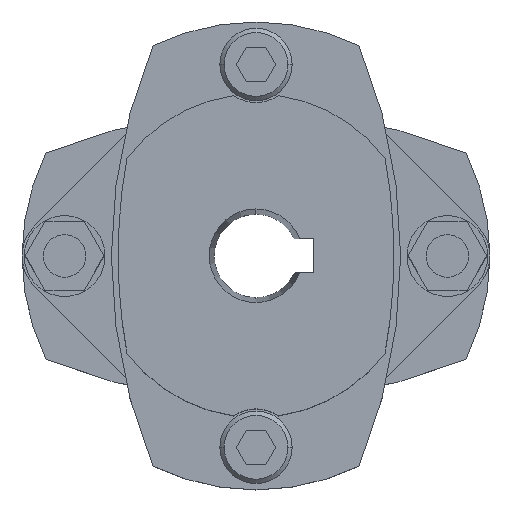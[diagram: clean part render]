
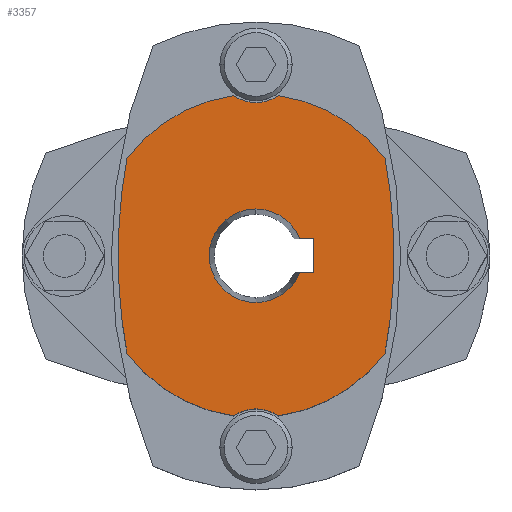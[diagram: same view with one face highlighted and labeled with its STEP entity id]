
A CAD part, top view. The second image highlights one B-rep face of the part: STEP entity #3357.
In plain terms, the highlighted planar face has unit normal (0, 0, 1).
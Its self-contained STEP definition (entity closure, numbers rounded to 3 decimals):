
#2071=CARTESIAN_POINT('',(-16.2,0.,22.4));
#2072=VERTEX_POINT('',#2071);
#2088=CARTESIAN_POINT('',(-15.173,-11.435,22.4));
#2089=VERTEX_POINT('',#2088);
#2096=CARTESIAN_POINT('',(48.,0.,22.4));
#2097=DIRECTION('',(0.0,0.0,-1.0));
#2098=DIRECTION('',(-1.0,0.0,0.0));
#2099=AXIS2_PLACEMENT_3D('',#2096,#2097,#2098);
#2100=CIRCLE('',#2099,64.2);
#2101=EDGE_CURVE('',#2089,#2072,#2100,.T.);
#2111=CARTESIAN_POINT('',(16.2,0.,22.4));
#2112=VERTEX_POINT('',#2111);
#2121=CARTESIAN_POINT('',(15.173,-11.435,22.4));
#2122=VERTEX_POINT('',#2121);
#2123=CARTESIAN_POINT('',(-48.,0.,22.4));
#2124=DIRECTION('',(0.0,0.0,-1.0));
#2125=DIRECTION('',(-1.0,0.0,0.0));
#2126=AXIS2_PLACEMENT_3D('',#2123,#2124,#2125);
#2127=CIRCLE('',#2126,64.2);
#2128=EDGE_CURVE('',#2112,#2122,#2127,.T.);
#2343=CARTESIAN_POINT('',(0.,5.5,22.4));
#2344=VERTEX_POINT('',#2343);
#2362=CARTESIAN_POINT('',(5.123,2.,22.4));
#2363=VERTEX_POINT('',#2362);
#2377=CARTESIAN_POINT('',(0.,0.,22.4));
#2378=DIRECTION('',(0.0,0.0,-1.0));
#2379=DIRECTION('',(0.0,-1.0,0.0));
#2380=AXIS2_PLACEMENT_3D('',#2377,#2378,#2379);
#2381=CIRCLE('',#2380,5.5);
#2382=EDGE_CURVE('',#2344,#2363,#2381,.T.);
#2394=CARTESIAN_POINT('',(0.,-5.5,22.4));
#2395=VERTEX_POINT('',#2394);
#2410=CARTESIAN_POINT('',(0.,0.,22.4));
#2411=DIRECTION('',(0.0,0.0,-1.0));
#2412=DIRECTION('',(0.0,-1.0,0.0));
#2413=AXIS2_PLACEMENT_3D('',#2410,#2411,#2412);
#2414=CIRCLE('',#2413,5.5);
#2415=EDGE_CURVE('',#2395,#2344,#2414,.T.);
#2497=CARTESIAN_POINT('',(6.8,-2.,22.4));
#2498=VERTEX_POINT('',#2497);
#2499=CARTESIAN_POINT('',(5.123,-2.,22.4));
#2500=VERTEX_POINT('',#2499);
#2501=CARTESIAN_POINT('',(6.8,-2.,22.4));
#2502=DIRECTION('',(-1.0,0.0,0.0));
#2503=VECTOR('',#2502,1.677);
#2504=LINE('',#2501,#2503);
#2505=EDGE_CURVE('',#2498,#2500,#2504,.T.);
#2544=CARTESIAN_POINT('',(6.8,2.,22.4));
#2545=VERTEX_POINT('',#2544);
#2546=CARTESIAN_POINT('',(5.123,2.,22.4));
#2547=DIRECTION('',(1.0,0.0,0.0));
#2548=VECTOR('',#2547,1.677);
#2549=LINE('',#2546,#2548);
#2550=EDGE_CURVE('',#2363,#2545,#2549,.T.);
#2575=CARTESIAN_POINT('',(6.8,2.,22.4));
#2576=DIRECTION('',(0.0,-1.0,0.0));
#2577=VECTOR('',#2576,4.0);
#2578=LINE('',#2575,#2577);
#2579=EDGE_CURVE('',#2545,#2498,#2578,.T.);
#2628=CARTESIAN_POINT('',(0.,0.,22.4));
#2629=DIRECTION('',(0.0,0.0,-1.0));
#2630=DIRECTION('',(0.0,-1.0,0.0));
#2631=AXIS2_PLACEMENT_3D('',#2628,#2629,#2630);
#2632=CIRCLE('',#2631,5.5);
#2633=EDGE_CURVE('',#2500,#2395,#2632,.T.);
#3179=CARTESIAN_POINT('',(-2.593,-18.822,22.4));
#3180=VERTEX_POINT('',#3179);
#3196=CARTESIAN_POINT('',(2.593,-18.822,22.4));
#3197=VERTEX_POINT('',#3196);
#3204=CARTESIAN_POINT('',(0.,-22.5,22.4));
#3205=DIRECTION('',(0.0,0.0,-1.0));
#3206=DIRECTION('',(-1.0,0.0,0.0));
#3207=AXIS2_PLACEMENT_3D('',#3204,#3205,#3206);
#3208=CIRCLE('',#3207,4.5);
#3209=EDGE_CURVE('',#3180,#3197,#3208,.T.);
#3221=CARTESIAN_POINT('',(2.593,18.822,22.4));
#3222=VERTEX_POINT('',#3221);
#3238=CARTESIAN_POINT('',(-2.593,18.822,22.4));
#3239=VERTEX_POINT('',#3238);
#3246=CARTESIAN_POINT('',(0.,22.5,22.4));
#3247=DIRECTION('',(0.0,0.0,-1.0));
#3248=DIRECTION('',(-1.0,0.0,0.0));
#3249=AXIS2_PLACEMENT_3D('',#3246,#3247,#3248);
#3250=CIRCLE('',#3249,4.5);
#3251=EDGE_CURVE('',#3222,#3239,#3250,.T.);
#3270=CARTESIAN_POINT('',(0.,0.,22.4));
#3271=DIRECTION('',(0.0,0.0,-1.0));
#3272=DIRECTION('',(-1.0,0.0,0.0));
#3273=AXIS2_PLACEMENT_3D('',#3270,#3271,#3272);
#3274=CIRCLE('',#3273,19.);
#3275=EDGE_CURVE('',#2122,#3197,#3274,.T.);
#3286=CARTESIAN_POINT('',(0.,0.,22.4));
#3287=DIRECTION('',(0.0,0.0,-1.0));
#3288=DIRECTION('',(-1.0,0.0,0.0));
#3289=AXIS2_PLACEMENT_3D('',#3286,#3287,#3288);
#3290=CIRCLE('',#3289,19.);
#3291=EDGE_CURVE('',#3180,#2089,#3290,.T.);
#3304=CARTESIAN_POINT('',(0.,0.,22.4));
#3305=DIRECTION('',(0.0,0.0,1.0));
#3306=DIRECTION('',(-1.0,0.0,0.0));
#3307=AXIS2_PLACEMENT_3D('',#3304,#3305,#3306);
#3308=PLANE('',#3307);
#3309=ORIENTED_EDGE('',*,*,#3209,.T.);
#3310=ORIENTED_EDGE('',*,*,#3275,.F.);
#3311=ORIENTED_EDGE('',*,*,#2128,.F.);
#3312=CARTESIAN_POINT('',(15.173,11.435,22.4));
#3313=VERTEX_POINT('',#3312);
#3314=CARTESIAN_POINT('',(-48.,0.,22.4));
#3315=DIRECTION('',(0.0,0.0,-1.0));
#3316=DIRECTION('',(-1.0,0.0,0.0));
#3317=AXIS2_PLACEMENT_3D('',#3314,#3315,#3316);
#3318=CIRCLE('',#3317,64.2);
#3319=EDGE_CURVE('',#3313,#2112,#3318,.T.);
#3320=ORIENTED_EDGE('',*,*,#3319,.F.);
#3321=CARTESIAN_POINT('',(0.,0.,22.4));
#3322=DIRECTION('',(0.0,0.0,-1.0));
#3323=DIRECTION('',(-1.0,0.0,0.0));
#3324=AXIS2_PLACEMENT_3D('',#3321,#3322,#3323);
#3325=CIRCLE('',#3324,19.);
#3326=EDGE_CURVE('',#3222,#3313,#3325,.T.);
#3327=ORIENTED_EDGE('',*,*,#3326,.F.);
#3328=ORIENTED_EDGE('',*,*,#3251,.T.);
#3329=CARTESIAN_POINT('',(-15.173,11.435,22.4));
#3330=VERTEX_POINT('',#3329);
#3331=CARTESIAN_POINT('',(0.,0.,22.4));
#3332=DIRECTION('',(0.0,0.0,-1.0));
#3333=DIRECTION('',(-1.0,0.0,0.0));
#3334=AXIS2_PLACEMENT_3D('',#3331,#3332,#3333);
#3335=CIRCLE('',#3334,19.);
#3336=EDGE_CURVE('',#3330,#3239,#3335,.T.);
#3337=ORIENTED_EDGE('',*,*,#3336,.F.);
#3338=CARTESIAN_POINT('',(48.,0.,22.4));
#3339=DIRECTION('',(0.0,0.0,-1.0));
#3340=DIRECTION('',(-1.0,0.0,0.0));
#3341=AXIS2_PLACEMENT_3D('',#3338,#3339,#3340);
#3342=CIRCLE('',#3341,64.2);
#3343=EDGE_CURVE('',#2072,#3330,#3342,.T.);
#3344=ORIENTED_EDGE('',*,*,#3343,.F.);
#3345=ORIENTED_EDGE('',*,*,#2101,.F.);
#3346=ORIENTED_EDGE('',*,*,#3291,.F.);
#3347=EDGE_LOOP('',(#3309,#3310,#3311,#3320,#3327,#3328,#3337,#3344,#3345,#3346));
#3348=FACE_OUTER_BOUND('',#3347,.T.);
#3349=ORIENTED_EDGE('',*,*,#2505,.T.);
#3350=ORIENTED_EDGE('',*,*,#2633,.T.);
#3351=ORIENTED_EDGE('',*,*,#2415,.T.);
#3352=ORIENTED_EDGE('',*,*,#2382,.T.);
#3353=ORIENTED_EDGE('',*,*,#2550,.T.);
#3354=ORIENTED_EDGE('',*,*,#2579,.T.);
#3355=EDGE_LOOP('',(#3349,#3350,#3351,#3352,#3353,#3354));
#3356=FACE_BOUND('',#3355,.T.);
#3357=ADVANCED_FACE('',(#3348,#3356),#3308,.T.);
